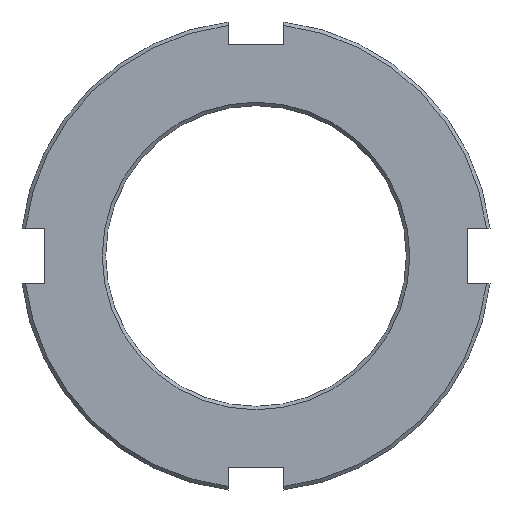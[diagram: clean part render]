
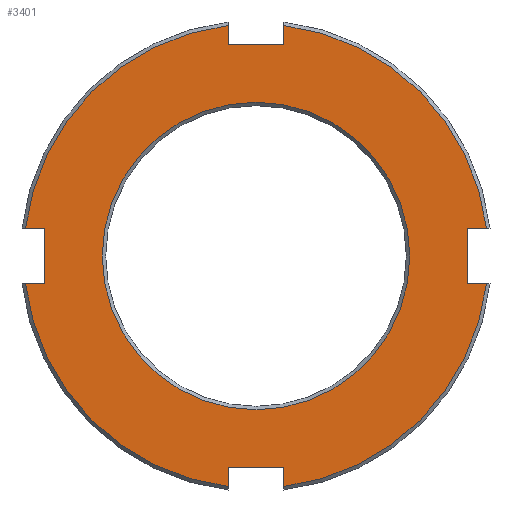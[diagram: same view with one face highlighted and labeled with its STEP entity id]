
A CAD part, front view. The second image highlights one B-rep face of the part: STEP entity #3401.
In plain terms, the highlighted planar face has unit normal (0, -1, 0).
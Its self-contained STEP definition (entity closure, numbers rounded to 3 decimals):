
#49=CIRCLE('',#3558,22.188);
#53=CIRCLE('',#3564,33.5);
#54=CIRCLE('',#3565,33.5);
#55=CIRCLE('',#3566,33.5);
#56=CIRCLE('',#3567,33.5);
#86=FACE_BOUND('',#578,.T.);
#379=FACE_OUTER_BOUND('',#577,.T.);
#577=EDGE_LOOP('',(#2966,#2967,#2968,#2969,#2970,#2971,#2972,#2973,#2974,
#2975,#2976,#2977,#2978,#2979,#2980,#2981));
#578=EDGE_LOOP('',(#2982));
#926=LINE('',#5740,#1286);
#927=LINE('',#5742,#1287);
#928=LINE('',#5744,#1288);
#929=LINE('',#5748,#1289);
#930=LINE('',#5750,#1290);
#931=LINE('',#5752,#1291);
#932=LINE('',#5756,#1292);
#933=LINE('',#5758,#1293);
#934=LINE('',#5760,#1294);
#935=LINE('',#5764,#1295);
#936=LINE('',#5766,#1296);
#937=LINE('',#5767,#1297);
#1286=VECTOR('',#4159,10.);
#1287=VECTOR('',#4160,10.);
#1288=VECTOR('',#4161,10.);
#1289=VECTOR('',#4164,10.);
#1290=VECTOR('',#4165,10.);
#1291=VECTOR('',#4166,10.);
#1292=VECTOR('',#4169,10.);
#1293=VECTOR('',#4170,10.);
#1294=VECTOR('',#4171,10.);
#1295=VECTOR('',#4174,10.);
#1296=VECTOR('',#4175,10.);
#1297=VECTOR('',#4176,10.);
#1602=VERTEX_POINT('',#5724);
#1606=VERTEX_POINT('',#5736);
#1607=VERTEX_POINT('',#5737);
#1608=VERTEX_POINT('',#5739);
#1609=VERTEX_POINT('',#5741);
#1610=VERTEX_POINT('',#5743);
#1611=VERTEX_POINT('',#5745);
#1612=VERTEX_POINT('',#5747);
#1613=VERTEX_POINT('',#5749);
#1614=VERTEX_POINT('',#5751);
#1615=VERTEX_POINT('',#5753);
#1616=VERTEX_POINT('',#5755);
#1617=VERTEX_POINT('',#5757);
#1618=VERTEX_POINT('',#5759);
#1619=VERTEX_POINT('',#5761);
#1620=VERTEX_POINT('',#5763);
#1621=VERTEX_POINT('',#5765);
#2065=EDGE_CURVE('',#1602,#1602,#49,.T.);
#2071=EDGE_CURVE('',#1606,#1607,#53,.T.);
#2072=EDGE_CURVE('',#1606,#1608,#926,.T.);
#2073=EDGE_CURVE('',#1608,#1609,#927,.T.);
#2074=EDGE_CURVE('',#1609,#1610,#928,.T.);
#2075=EDGE_CURVE('',#1611,#1610,#54,.T.);
#2076=EDGE_CURVE('',#1611,#1612,#929,.T.);
#2077=EDGE_CURVE('',#1612,#1613,#930,.T.);
#2078=EDGE_CURVE('',#1613,#1614,#931,.T.);
#2079=EDGE_CURVE('',#1615,#1614,#55,.T.);
#2080=EDGE_CURVE('',#1615,#1616,#932,.T.);
#2081=EDGE_CURVE('',#1616,#1617,#933,.T.);
#2082=EDGE_CURVE('',#1617,#1618,#934,.T.);
#2083=EDGE_CURVE('',#1619,#1618,#56,.T.);
#2084=EDGE_CURVE('',#1619,#1620,#935,.T.);
#2085=EDGE_CURVE('',#1620,#1621,#936,.T.);
#2086=EDGE_CURVE('',#1621,#1607,#937,.T.);
#2966=ORIENTED_EDGE('',*,*,#2071,.F.);
#2967=ORIENTED_EDGE('',*,*,#2072,.T.);
#2968=ORIENTED_EDGE('',*,*,#2073,.T.);
#2969=ORIENTED_EDGE('',*,*,#2074,.T.);
#2970=ORIENTED_EDGE('',*,*,#2075,.F.);
#2971=ORIENTED_EDGE('',*,*,#2076,.T.);
#2972=ORIENTED_EDGE('',*,*,#2077,.T.);
#2973=ORIENTED_EDGE('',*,*,#2078,.T.);
#2974=ORIENTED_EDGE('',*,*,#2079,.F.);
#2975=ORIENTED_EDGE('',*,*,#2080,.T.);
#2976=ORIENTED_EDGE('',*,*,#2081,.T.);
#2977=ORIENTED_EDGE('',*,*,#2082,.T.);
#2978=ORIENTED_EDGE('',*,*,#2083,.F.);
#2979=ORIENTED_EDGE('',*,*,#2084,.T.);
#2980=ORIENTED_EDGE('',*,*,#2085,.T.);
#2981=ORIENTED_EDGE('',*,*,#2086,.T.);
#2982=ORIENTED_EDGE('',*,*,#2065,.F.);
#3233=PLANE('',#3563);
#3401=ADVANCED_FACE('',(#379,#86),#3233,.T.);
#3558=AXIS2_PLACEMENT_3D('',#5725,#4143,#4144);
#3563=AXIS2_PLACEMENT_3D('',#5735,#4155,#4156);
#3564=AXIS2_PLACEMENT_3D('',#5738,#4157,#4158);
#3565=AXIS2_PLACEMENT_3D('',#5746,#4162,#4163);
#3566=AXIS2_PLACEMENT_3D('',#5754,#4167,#4168);
#3567=AXIS2_PLACEMENT_3D('',#5762,#4172,#4173);
#4143=DIRECTION('center_axis',(0.,-1.,0.));
#4144=DIRECTION('ref_axis',(1.,0.,0.));
#4155=DIRECTION('center_axis',(0.,-1.,0.));
#4156=DIRECTION('ref_axis',(0.,0.,-1.));
#4157=DIRECTION('center_axis',(0.,1.,0.));
#4158=DIRECTION('ref_axis',(0.993,0.,-0.118));
#4159=DIRECTION('',(-1.,0.,0.));
#4160=DIRECTION('',(0.,0.,1.));
#4161=DIRECTION('',(1.,0.,0.));
#4162=DIRECTION('center_axis',(0.,1.,0.));
#4163=DIRECTION('ref_axis',(0.118,0.,0.993));
#4164=DIRECTION('',(0.,0.,-1.));
#4165=DIRECTION('',(-1.,0.,0.));
#4166=DIRECTION('',(0.,0.,1.));
#4167=DIRECTION('center_axis',(0.,1.,0.));
#4168=DIRECTION('ref_axis',(-0.993,0.,0.118));
#4169=DIRECTION('',(1.,0.,0.));
#4170=DIRECTION('',(0.,0.,-1.));
#4171=DIRECTION('',(-1.,0.,0.));
#4172=DIRECTION('center_axis',(0.,1.,0.));
#4173=DIRECTION('ref_axis',(-0.118,0.,-0.993));
#4174=DIRECTION('',(0.,0.,1.));
#4175=DIRECTION('',(1.,0.,0.));
#4176=DIRECTION('',(0.,0.,-1.));
#5724=CARTESIAN_POINT('',(-22.188,0.,0.));
#5725=CARTESIAN_POINT('Origin',(0.,0.,0.));
#5735=CARTESIAN_POINT('Origin',(0.,0.,0.));
#5736=CARTESIAN_POINT('',(33.26,0.,-4.));
#5737=CARTESIAN_POINT('',(4.,0.,-33.26));
#5738=CARTESIAN_POINT('Origin',(0.,0.,0.));
#5739=CARTESIAN_POINT('',(30.5,0.,-4.));
#5740=CARTESIAN_POINT('',(33.764,0.,-4.));
#5741=CARTESIAN_POINT('',(30.5,0.,4.));
#5742=CARTESIAN_POINT('',(30.5,0.,-4.));
#5743=CARTESIAN_POINT('',(33.26,0.,4.));
#5744=CARTESIAN_POINT('',(30.5,0.,4.));
#5745=CARTESIAN_POINT('',(4.,0.,33.26));
#5746=CARTESIAN_POINT('Origin',(0.,0.,0.));
#5747=CARTESIAN_POINT('',(4.,0.,30.5));
#5748=CARTESIAN_POINT('',(4.,0.,33.764));
#5749=CARTESIAN_POINT('',(-4.,0.,30.5));
#5750=CARTESIAN_POINT('',(4.,0.,30.5));
#5751=CARTESIAN_POINT('',(-4.,0.,33.26));
#5752=CARTESIAN_POINT('',(-4.,0.,30.5));
#5753=CARTESIAN_POINT('',(-33.26,0.,4.));
#5754=CARTESIAN_POINT('Origin',(0.,0.,0.));
#5755=CARTESIAN_POINT('',(-30.5,0.,4.));
#5756=CARTESIAN_POINT('',(-33.764,0.,4.));
#5757=CARTESIAN_POINT('',(-30.5,0.,-4.));
#5758=CARTESIAN_POINT('',(-30.5,0.,4.));
#5759=CARTESIAN_POINT('',(-33.26,0.,-4.));
#5760=CARTESIAN_POINT('',(-30.5,0.,-4.));
#5761=CARTESIAN_POINT('',(-4.,0.,-33.26));
#5762=CARTESIAN_POINT('Origin',(0.,0.,0.));
#5763=CARTESIAN_POINT('',(-4.,0.,-30.5));
#5764=CARTESIAN_POINT('',(-4.,0.,-33.764));
#5765=CARTESIAN_POINT('',(4.,0.,-30.5));
#5766=CARTESIAN_POINT('',(-4.,0.,-30.5));
#5767=CARTESIAN_POINT('',(4.,0.,-30.5));
